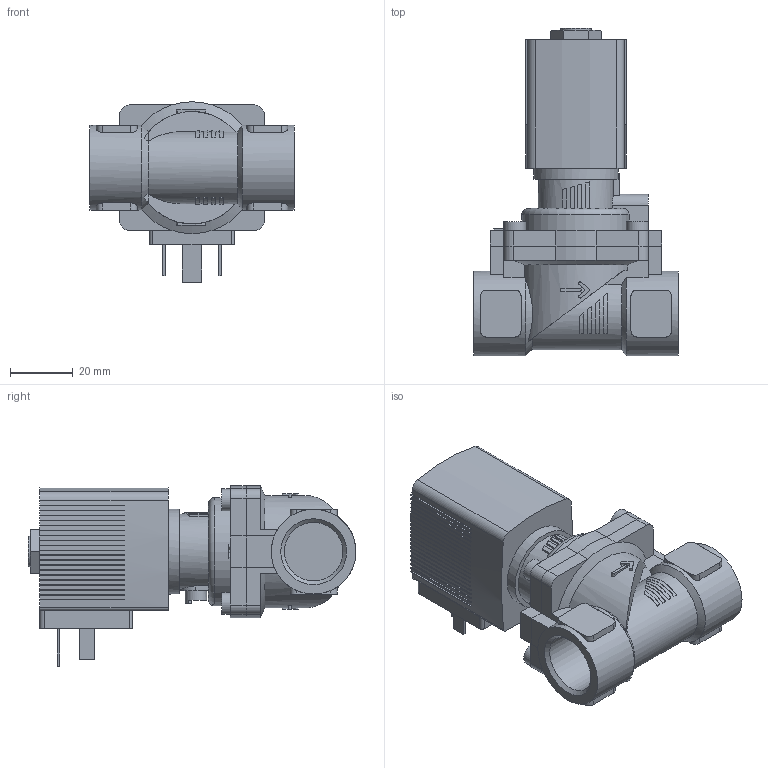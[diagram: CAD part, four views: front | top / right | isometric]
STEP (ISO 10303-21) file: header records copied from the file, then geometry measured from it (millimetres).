
FILE_DESCRIPTION(/* description */ ('STEP AP214'),/* implementation_level */ '2;1');
FILE_NAME(/* name */ '6281-350977-2_2-Way_Solenoid_Valve__Servo-assisted__General_Purpose',/* time_stamp */ '2024-05-19T22:01:48+02:00',/* author */ ('License CC BY-ND 4.0'),/* organization */ ('CADENAS'),/* preprocessor_version */ 'ST-DEVELOPER v19.3',/* originating_system */ 'PARTsolutions',/* authorisation */ ' ');
FILE_SCHEMA (('AUTOMOTIVE_DESIGN {1 0 10303 214 3 1 1}'));
Length unit declared in the file: millimetre
Products named in the file (4): 6281-350977-2/2-Way Solenoid Valve, Servo-assisted, General Purpose; 5281ev131MS2/2-Wege-Magnetventil mit Servomembran-Deckel 42 ; 6213-13G1/2MS-Gehaeuse-lang; AC10ex-5OO-Plan-Coil
Assembly tree (3 placements, depth 2):
  6281-350977-2/2-Way Solenoid Valve, Servo-assisted, General Purpose
    5281ev131MS2/2-Wege-Magnetventil mit Servomembran-Deckel 42 
    6213-13G1/2MS-Gehaeuse-lang
    AC10ex-5OO-Plan-Coil
Bounding box: 65 x 104.5 x 57.5 mm (x, y, z)
Volume: 119782.5 mm3; surface area: 30293.9 mm2
Topology: 3 solids, 3 shells, 557 faces, 1537 edges, 1014 vertices
Faces by surface type: plane 449, cylinder 94, cone 13, torus 1
Full cylindrical faces by diameter (mm): 2.013 x1, 6.8 x1, 7 x4, 9.74 x1, 18.631 x2, 27 x3
Entity records: 20455 total; most frequent: CARTESIAN_POINT 3331, ORIENTED_EDGE 3028, DIRECTION 2906, EDGE_CURVE 1514, LINE 1114, VECTOR 1114, VERTEX_POINT 1007, AXIS2_PLACEMENT_3D 896
